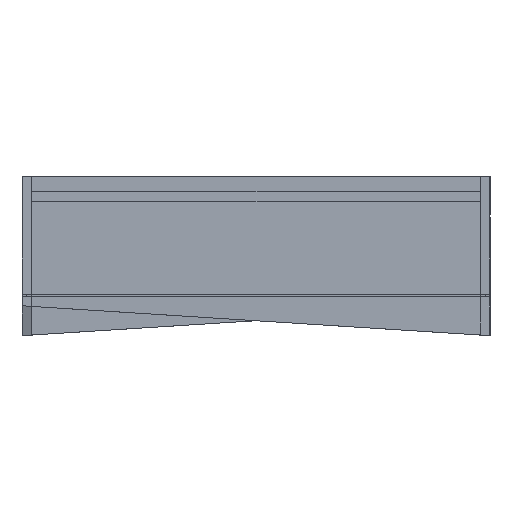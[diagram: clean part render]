
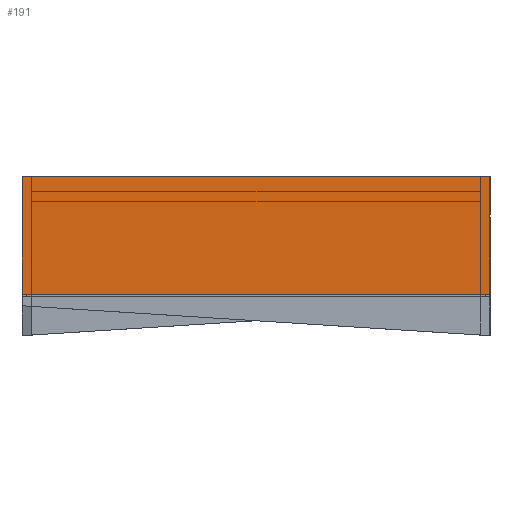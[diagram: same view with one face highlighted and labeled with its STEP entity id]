
A CAD part, left-side view. The second image highlights one B-rep face of the part: STEP entity #191.
In plain terms, the highlighted planar face has unit normal (-1, 0, 0).
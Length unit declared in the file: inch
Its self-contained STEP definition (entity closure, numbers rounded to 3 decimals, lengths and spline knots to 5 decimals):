
#191=ADVANCED_FACE('',(#473),#4433,.T.);
#473=FACE_OUTER_BOUND('',#771,.T.);
#771=EDGE_LOOP('',(#1515,#1516,#1517,#1518));
#1515=ORIENTED_EDGE('',*,*,#2678,.F.);
#1516=ORIENTED_EDGE('',*,*,#2659,.F.);
#1517=ORIENTED_EDGE('',*,*,#2677,.T.);
#1518=ORIENTED_EDGE('',*,*,#2672,.F.);
#2659=EDGE_CURVE('',#4022,#4025,#3379,.T.);
#2672=EDGE_CURVE('',#4032,#4031,#3392,.T.);
#2677=EDGE_CURVE('',#4022,#4031,#3397,.T.);
#2678=EDGE_CURVE('',#4025,#4032,#3398,.T.);
#3379=B_SPLINE_CURVE_WITH_KNOTS('',1,(#6139,#6140),.UNSPECIFIED.,.F.,.F.,
(2,2),(-75.04782,-51.54782),.UNSPECIFIED.);
#3392=B_SPLINE_CURVE_WITH_KNOTS('',1,(#6167,#6168),.UNSPECIFIED.,.F.,.F.,
(2,2),(-47.125,-23.625),.UNSPECIFIED.);
#3397=B_SPLINE_CURVE_WITH_KNOTS('',1,(#6177,#6178),.UNSPECIFIED.,.F.,.F.,
(2,2),(0.,5.92242),.UNSPECIFIED.);
#3398=B_SPLINE_CURVE_WITH_KNOTS('',1,(#6179,#6180),.UNSPECIFIED.,.F.,.F.,
(2,2),(0.,5.92242),.UNSPECIFIED.);
#4022=VERTEX_POINT('',#6116);
#4025=VERTEX_POINT('',#6119);
#4031=VERTEX_POINT('',#6125);
#4032=VERTEX_POINT('',#6126);
#4433=PLANE('',#4806);
#4806=AXIS2_PLACEMENT_3D('',#6111,#5092,$);
#5092=DIRECTION('',(-1.,0.,0.));
#6111=CARTESIAN_POINT('',(4601.35846,-215.35913,252.96414));
#6116=CARTESIAN_POINT('',(4601.35846,-215.35913,252.96414));
#6119=CARTESIAN_POINT('',(4601.35846,-238.85913,252.96414));
#6125=CARTESIAN_POINT('',(4601.35846,-215.35913,247.04172));
#6126=CARTESIAN_POINT('',(4601.35846,-238.85913,247.04172));
#6139=CARTESIAN_POINT('',(4601.35846,-215.35913,252.96414));
#6140=CARTESIAN_POINT('',(4601.35846,-238.85913,252.96414));
#6167=CARTESIAN_POINT('',(4601.35846,-238.85913,247.04172));
#6168=CARTESIAN_POINT('',(4601.35846,-215.35913,247.04172));
#6177=CARTESIAN_POINT('',(4601.35846,-215.35913,252.96414));
#6178=CARTESIAN_POINT('',(4601.35846,-215.35913,247.04172));
#6179=CARTESIAN_POINT('',(4601.35846,-238.85913,252.96414));
#6180=CARTESIAN_POINT('',(4601.35846,-238.85913,247.04172));
